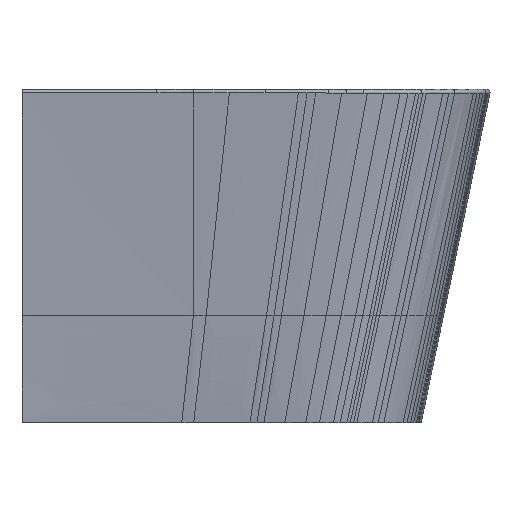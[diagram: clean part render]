
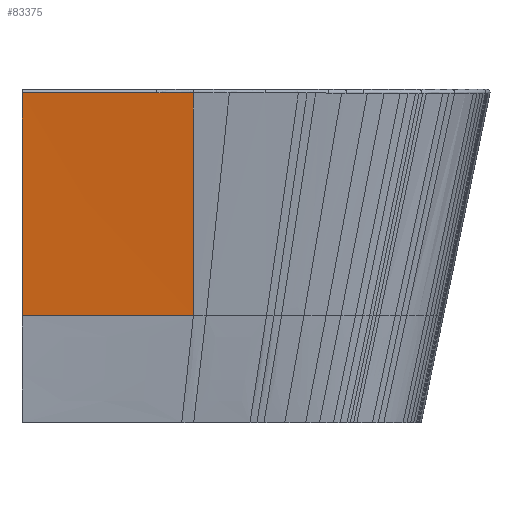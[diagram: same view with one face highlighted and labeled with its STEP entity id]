
A CAD part, front view. The second image highlights one B-rep face of the part: STEP entity #83375.
In plain terms, the highlighted free-form (B-spline) face has degree [1, 3] with [2, 5] control points.
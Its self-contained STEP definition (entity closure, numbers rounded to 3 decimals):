
#32585=CARTESIAN_POINT('Vertex',(0.,-189.836,-4.501)) ;
#32588=CARTESIAN_POINT('Line Origine',(0.,-172.127,-144.767)) ;
#32592=CARTESIAN_POINT('Vertex',(0.,-154.419,-285.033)) ;
#33199=CARTESIAN_POINT('Vertex',(169.466,-189.798,-4.531)) ;
#33203=CARTESIAN_POINT('Control Point',(0.,-189.836,-4.501)) ;
#33204=CARTESIAN_POINT('Control Point',(33.893,-189.829,-4.507)) ;
#33205=CARTESIAN_POINT('Control Point',(67.786,-189.821,-4.512)) ;
#33206=CARTESIAN_POINT('Control Point',(101.68,-189.814,-4.518)) ;
#33207=CARTESIAN_POINT('Control Point',(135.573,-189.806,-4.524)) ;
#33208=CARTESIAN_POINT('Control Point',(169.466,-189.798,-4.531)) ;
#33309=CARTESIAN_POINT('Vertex',(216.028,-189.786,-4.539)) ;
#33315=CARTESIAN_POINT('Control Point',(174.192,-189.796,-4.532)) ;
#33316=CARTESIAN_POINT('Control Point',(188.138,-189.793,-4.534)) ;
#33317=CARTESIAN_POINT('Control Point',(202.083,-189.79,-4.537)) ;
#33318=CARTESIAN_POINT('Control Point',(216.028,-189.786,-4.539)) ;
#33319=CARTESIAN_POINT('Vertex',(174.192,-189.796,-4.532)) ;
#33323=CARTESIAN_POINT('Control Point',(169.555,-189.798,-4.531)) ;
#33324=CARTESIAN_POINT('Control Point',(171.101,-189.797,-4.531)) ;
#33325=CARTESIAN_POINT('Control Point',(172.647,-189.797,-4.531)) ;
#33326=CARTESIAN_POINT('Control Point',(174.192,-189.796,-4.532)) ;
#33491=CARTESIAN_POINT('Vertex',(216.028,-151.234,-285.033)) ;
#33495=CARTESIAN_POINT('Control Point',(216.028,-151.234,-285.033)) ;
#33496=CARTESIAN_POINT('Control Point',(216.028,-160.917,-215.359)) ;
#33497=CARTESIAN_POINT('Control Point',(216.028,-170.567,-145.344)) ;
#33498=CARTESIAN_POINT('Control Point',(216.028,-180.188,-75.058)) ;
#33499=CARTESIAN_POINT('Control Point',(216.028,-189.786,-4.539)) ;
#83341=CARTESIAN_POINT('Control Point',(216.028,-151.234,-285.033)) ;
#83342=CARTESIAN_POINT('Control Point',(162.382,-152.105,-285.033)) ;
#83343=CARTESIAN_POINT('Control Point',(108.468,-152.921,-285.033)) ;
#83344=CARTESIAN_POINT('Control Point',(54.332,-153.691,-285.033)) ;
#83345=CARTESIAN_POINT('Control Point',(0.,-154.419,-285.033)) ;
#83357=CARTESIAN_POINT('Control Point',(291.828,-230.402,289.116)) ;
#83358=CARTESIAN_POINT('Control Point',(259.402,-230.401,292.194)) ;
#83359=CARTESIAN_POINT('Control Point',(162.125,-230.402,301.428)) ;
#83360=CARTESIAN_POINT('Control Point',(64.853,-230.402,310.662)) ;
#83361=CARTESIAN_POINT('Control Point',(0.,-230.402,316.818)) ;
#83362=CARTESIAN_POINT('Control Point',(201.182,-109.882,-582.032)) ;
#83363=CARTESIAN_POINT('Control Point',(178.83,-109.883,-588.229)) ;
#83364=CARTESIAN_POINT('Control Point',(111.77,-109.882,-606.818)) ;
#83365=CARTESIAN_POINT('Control Point',(44.707,-109.883,-625.408)) ;
#83366=CARTESIAN_POINT('Control Point',(0.,-109.883,-637.801)) ;
#32589=DIRECTION('Vector Direction',(0.,0.125,-0.992)) ;
#32590=VECTOR('Line Direction',#32589,1.) ;
#83368=ORIENTED_EDGE('',*,*,#83346,.T.) ;
#83369=ORIENTED_EDGE('',*,*,#32594,.F.) ;
#83370=ORIENTED_EDGE('',*,*,#33209,.F.) ;
#83371=ORIENTED_EDGE('',*,*,#33327,.T.) ;
#83372=ORIENTED_EDGE('',*,*,#33321,.T.) ;
#83373=ORIENTED_EDGE('',*,*,#33500,.F.) ;
#83375=ADVANCED_FACE('Raccordo su spigolo.2',(#83374),#83356,.T.) ;
#33494=B_SPLINE_CURVE_WITH_KNOTS('',4,(#33495,#33496,#33497,#33498,#33499),.UNSPECIFIED.,.F.,.U.,(5,5),(2.775,411.999),.UNSPECIFIED.) ;
#83340=B_SPLINE_CURVE_WITH_KNOTS('',4,(#83341,#83342,#83343,#83344,#83345),.UNSPECIFIED.,.F.,.U.,(5,5),(23.882,342.855),.UNSPECIFIED.) ;
#83356=B_SPLINE_SURFACE_WITH_KNOTS('',1,3,((#83357,#83358,#83359,#83360,#83361),(#83362,#83363,#83364,#83365,#83366)),.UNSPECIFIED.,.F.,.F.,.U.,(2,2),(4,1,4),(-641.79,278.246),(1077.67,1161.321,1328.624),.UNSPECIFIED.) ;
#32594=EDGE_CURVE('',#32586,#32593,#32591,.T.) ;
#33209=EDGE_CURVE('',#33200,#32586,#33202,.F.) ;
#33321=EDGE_CURVE('',#33320,#33310,#33314,.T.) ;
#33327=EDGE_CURVE('',#33200,#33320,#33322,.T.) ;
#33500=EDGE_CURVE('',#33492,#33310,#33494,.T.) ;
#83346=EDGE_CURVE('',#33492,#32593,#83340,.T.) ;
#83367=EDGE_LOOP('',(#83368,#83369,#83370,#83371,#83372,#83373)) ;
#83374=FACE_OUTER_BOUND('',#83367,.T.) ;
#32591=LINE('Line',#32588,#32590) ;
#32586=VERTEX_POINT('',#32585) ;
#32593=VERTEX_POINT('',#32592) ;
#33200=VERTEX_POINT('',#33199) ;
#33310=VERTEX_POINT('',#33309) ;
#33320=VERTEX_POINT('',#33319) ;
#33492=VERTEX_POINT('',#33491) ;
#33202=(BOUNDED_CURVE()B_SPLINE_CURVE(5,(#33203,#33204,#33205,#33206,#33207,#33208),.UNSPECIFIED.,.F.,.U.)B_SPLINE_CURVE_WITH_KNOTS((6,6),(4.783,174.249),.UNSPECIFIED.)CURVE()GEOMETRIC_REPRESENTATION_ITEM()RATIONAL_B_SPLINE_CURVE((1.,1.,1.,1.,1.,1.))REPRESENTATION_ITEM('')) ;
#33314=(BOUNDED_CURVE()B_SPLINE_CURVE(3,(#33315,#33316,#33317,#33318),.UNSPECIFIED.,.F.,.U.)B_SPLINE_CURVE_WITH_KNOTS((4,4),(181.154,223.079),.UNSPECIFIED.)CURVE()GEOMETRIC_REPRESENTATION_ITEM()RATIONAL_B_SPLINE_CURVE((1.,1.,1.,1.))REPRESENTATION_ITEM('')) ;
#33322=(BOUNDED_CURVE()B_SPLINE_CURVE(3,(#33323,#33324,#33325,#33326),.UNSPECIFIED.,.F.,.U.)B_SPLINE_CURVE_WITH_KNOTS((4,4),(176.508,181.154),.UNSPECIFIED.)CURVE()GEOMETRIC_REPRESENTATION_ITEM()RATIONAL_B_SPLINE_CURVE((1.,1.,1.,1.))REPRESENTATION_ITEM('')) ;
